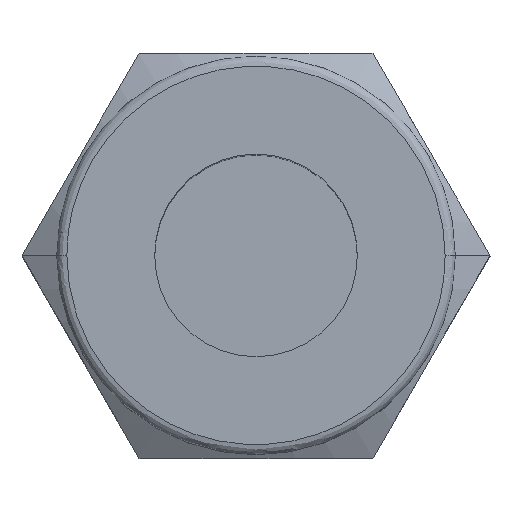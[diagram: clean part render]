
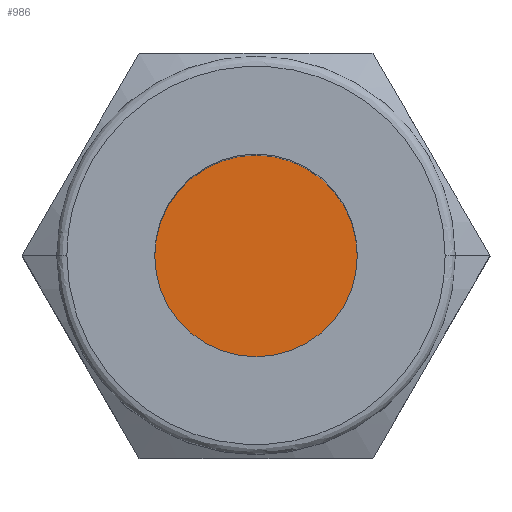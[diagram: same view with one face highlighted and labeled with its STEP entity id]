
A CAD part, top view. The second image highlights one B-rep face of the part: STEP entity #986.
In plain terms, the highlighted planar face has unit normal (0, 0, 1).
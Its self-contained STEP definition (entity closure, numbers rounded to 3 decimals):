
#113 = DIRECTION ( 'NONE',  ( 0., 0., 1. ) ) ;
#251 = CIRCLE ( 'NONE', #793, 3. ) ;
#281 = CARTESIAN_POINT ( 'NONE',  ( 0., 0., 5.6 ) ) ;
#311 = CIRCLE ( 'NONE', #1256, 3. ) ;
#326 = PLANE ( 'NONE',  #651 ) ;
#389 = CARTESIAN_POINT ( 'NONE',  ( 3., 0., 5.6 ) ) ;
#531 = EDGE_LOOP ( 'NONE', ( #737, #989 ) ) ;
#651 = AXIS2_PLACEMENT_3D ( 'NONE', #1658, #1406, #992 ) ;
#737 = ORIENTED_EDGE ( 'NONE', *, *, #1653, .T. ) ;
#793 = AXIS2_PLACEMENT_3D ( 'NONE', #1735, #113, #1486 ) ;
#910 = VERTEX_POINT ( 'NONE', #389 ) ;
#928 = DIRECTION ( 'NONE',  ( 0., 0., 1. ) ) ;
#986 = ADVANCED_FACE ( '13', ( #1000 ), #326, .T. ) ;
#989 = ORIENTED_EDGE ( 'NONE', *, *, #1589, .T. ) ;
#992 = DIRECTION ( 'NONE',  ( 1., 0., 0. ) ) ;
#1000 = FACE_OUTER_BOUND ( 'NONE', #531, .T. ) ;
#1136 = CARTESIAN_POINT ( 'NONE',  ( -3., 0., 5.6 ) ) ;
#1256 = AXIS2_PLACEMENT_3D ( 'NONE', #281, #928, #1349 ) ;
#1282 = VERTEX_POINT ( 'NONE', #1136 ) ;
#1349 = DIRECTION ( 'NONE',  ( 1., 0., 0. ) ) ;
#1406 = DIRECTION ( 'NONE',  ( 0., 0., 1. ) ) ;
#1486 = DIRECTION ( 'NONE',  ( 1., 0., 0. ) ) ;
#1589 = EDGE_CURVE ( 'NONE', #1282, #910, #311, .T. ) ;
#1653 = EDGE_CURVE ( 'NONE', #910, #1282, #251, .T. ) ;
#1658 = CARTESIAN_POINT ( 'NONE',  ( 6.281, 1.683, 5.6 ) ) ;
#1735 = CARTESIAN_POINT ( 'NONE',  ( 0., 0., 5.6 ) ) ;
